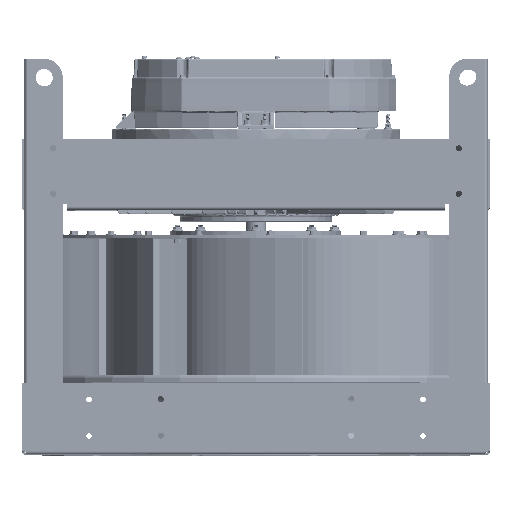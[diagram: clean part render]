
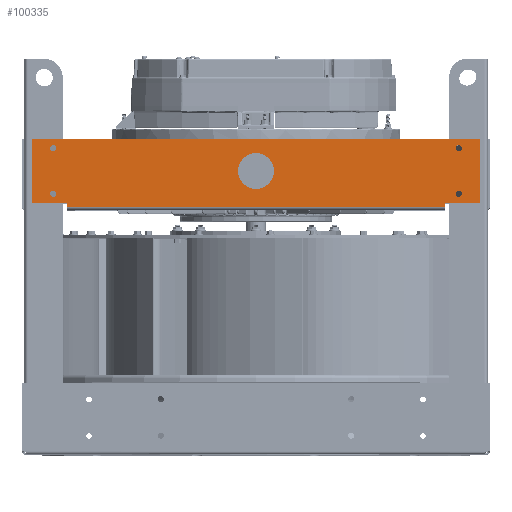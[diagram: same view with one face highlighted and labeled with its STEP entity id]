
A CAD part, top view. The second image highlights one B-rep face of the part: STEP entity #100335.
In plain terms, the highlighted planar face has unit normal (0, 0, 1).
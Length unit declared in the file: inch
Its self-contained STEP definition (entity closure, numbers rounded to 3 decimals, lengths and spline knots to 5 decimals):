
#490 = CARTESIAN_POINT ( 'NONE',  ( 12.465, -1.77, 0.135 ) ) ;
#2557 = DIRECTION ( 'NONE',  ( 0., 0., 1. ) ) ;
#7041 = ORIENTED_EDGE ( 'NONE', *, *, #202492, .T. ) ;
#7904 = ORIENTED_EDGE ( 'NONE', *, *, #88880, .T. ) ;
#8361 = DIRECTION ( 'NONE',  ( 0., 0., 1. ) ) ;
#9456 = ORIENTED_EDGE ( 'NONE', *, *, #35949, .F. ) ;
#10710 = DIRECTION ( 'NONE',  ( 0., 0., 1. ) ) ;
#16184 = LINE ( 'NONE', #255705, #154429 ) ;
#17860 = ORIENTED_EDGE ( 'NONE', *, *, #20929, .T. ) ;
#17904 = ORIENTED_EDGE ( 'NONE', *, *, #71793, .F. ) ;
#20929 = EDGE_CURVE ( 'NONE', #94265, #300326, #89560, .T. ) ;
#21633 = EDGE_CURVE ( 'NONE', #46619, #249233, #131315, .T. ) ;
#22157 = CIRCLE ( 'NONE', #311010, 0.172 ) ;
#24462 = EDGE_CURVE ( 'NONE', #28713, #28713, #31702, .T. ) ;
#24943 = EDGE_LOOP ( 'NONE', ( #197283 ) ) ;
#28713 = VERTEX_POINT ( 'NONE', #219026 ) ;
#29900 = AXIS2_PLACEMENT_3D ( 'NONE', #254078, #8361, #85927 ) ;
#31702 = CIRCLE ( 'NONE', #208892, 1. ) ;
#35949 = EDGE_CURVE ( 'NONE', #201519, #201519, #22157, .T. ) ;
#41467 = FACE_BOUND ( 'NONE', #262429, .T. ) ;
#46619 = VERTEX_POINT ( 'NONE', #207804 ) ;
#48455 = EDGE_CURVE ( 'NONE', #249233, #296844, #92329, .T. ) ;
#48533 = CARTESIAN_POINT ( 'NONE',  ( 0., 0., 0.135 ) ) ;
#61957 = CARTESIAN_POINT ( 'NONE',  ( 11.305, -1.27, 0.135 ) ) ;
#62321 = DIRECTION ( 'NONE',  ( 0., 1., 0. ) ) ;
#65805 = CIRCLE ( 'NONE', #111316, 0.172 ) ;
#68398 = EDGE_LOOP ( 'NONE', ( #138065 ) ) ;
#71242 = CARTESIAN_POINT ( 'NONE',  ( -10.555, 1.9775, 0.135 ) ) ;
#71793 = EDGE_CURVE ( 'NONE', #272517, #207022, #16184, .T. ) ;
#75865 = DIRECTION ( 'NONE',  ( 0., -1., 0. ) ) ;
#77788 = AXIS2_PLACEMENT_3D ( 'NONE', #227976, #10710, #281831 ) ;
#83133 = VECTOR ( 'NONE', #290428, 39.37008 ) ;
#85927 = DIRECTION ( 'NONE',  ( -1., 0., 0. ) ) ;
#88880 = EDGE_CURVE ( 'NONE', #300326, #46619, #94978, .T. ) ;
#89560 = LINE ( 'NONE', #186283, #91820 ) ;
#91820 = VECTOR ( 'NONE', #259237, 39.37008 ) ;
#92172 = FACE_BOUND ( 'NONE', #205823, .T. ) ;
#92329 = LINE ( 'NONE', #262041, #219518 ) ;
#94265 = VERTEX_POINT ( 'NONE', #128664 ) ;
#94978 = LINE ( 'NONE', #171035, #271687 ) ;
#96851 = CARTESIAN_POINT ( 'NONE',  ( -12.465, 1.77, 0.135 ) ) ;
#98784 = DIRECTION ( 'NONE',  ( 1., 0., 0. ) ) ;
#99592 = CARTESIAN_POINT ( 'NONE',  ( -11.477, -1.27, 0.135 ) ) ;
#100335 = ADVANCED_FACE ( 'NONE', ( #236545, #258757, #92172, #41467, #136628, #138188 ), #163578, .F. ) ;
#101149 = VERTEX_POINT ( 'NONE', #99592 ) ;
#106285 = CARTESIAN_POINT ( 'NONE',  ( -11.133, 1.27, 0.135 ) ) ;
#107984 = DIRECTION ( 'NONE',  ( 0., 0., 1. ) ) ;
#111309 = DIRECTION ( 'NONE',  ( 0., -1., 0. ) ) ;
#111316 = AXIS2_PLACEMENT_3D ( 'NONE', #61957, #107984, #158713 ) ;
#112187 = VECTOR ( 'NONE', #201193, 39.37008 ) ;
#124480 = VECTOR ( 'NONE', #260080, 39.37008 ) ;
#128664 = CARTESIAN_POINT ( 'NONE',  ( -10.555, 1.77, 0.135 ) ) ;
#129025 = EDGE_LOOP ( 'NONE', ( #222669 ) ) ;
#131315 = LINE ( 'NONE', #159836, #112187 ) ;
#136628 = FACE_BOUND ( 'NONE', #68398, .T. ) ;
#138065 = ORIENTED_EDGE ( 'NONE', *, *, #193894, .F. ) ;
#138188 = FACE_BOUND ( 'NONE', #24943, .T. ) ;
#139757 = DIRECTION ( 'NONE',  ( -1., 0., 0. ) ) ;
#140489 = CARTESIAN_POINT ( 'NONE',  ( -10.555, 1.9775, 0.135 ) ) ;
#143737 = VERTEX_POINT ( 'NONE', #197587 ) ;
#144895 = ORIENTED_EDGE ( 'NONE', *, *, #232259, .T. ) ;
#147885 = ORIENTED_EDGE ( 'NONE', *, *, #21633, .T. ) ;
#147909 = DIRECTION ( 'NONE',  ( 0., 0., 1. ) ) ;
#154429 = VECTOR ( 'NONE', #111309, 39.37008 ) ;
#158713 = DIRECTION ( 'NONE',  ( 1., 0., 0. ) ) ;
#159836 = CARTESIAN_POINT ( 'NONE',  ( -12.465, -1.77, 0.135 ) ) ;
#163578 = PLANE ( 'NONE',  #242613 ) ;
#167090 = VERTEX_POINT ( 'NONE', #308307 ) ;
#168268 = LINE ( 'NONE', #288850, #83133 ) ;
#169029 = CIRCLE ( 'NONE', #77788, 0.172 ) ;
#170843 = EDGE_CURVE ( 'NONE', #101149, #101149, #257855, .T. ) ;
#171035 = CARTESIAN_POINT ( 'NONE',  ( -12.465, -1.77, 0.135 ) ) ;
#186283 = CARTESIAN_POINT ( 'NONE',  ( -12.465, 1.77, 0.135 ) ) ;
#193894 = EDGE_CURVE ( 'NONE', #167090, #167090, #65805, .T. ) ;
#194424 = DIRECTION ( 'NONE',  ( 1., 0., 0. ) ) ;
#197283 = ORIENTED_EDGE ( 'NONE', *, *, #307972, .F. ) ;
#197587 = CARTESIAN_POINT ( 'NONE',  ( 11.133, 1.27, 0.135 ) ) ;
#198726 = ORIENTED_EDGE ( 'NONE', *, *, #297808, .T. ) ;
#201193 = DIRECTION ( 'NONE',  ( 1., 0., 0. ) ) ;
#201519 = VERTEX_POINT ( 'NONE', #106285 ) ;
#202492 = EDGE_CURVE ( 'NONE', #296844, #207022, #284829, .T. ) ;
#205823 = EDGE_LOOP ( 'NONE', ( #220175 ) ) ;
#207022 = VERTEX_POINT ( 'NONE', #301751 ) ;
#207804 = CARTESIAN_POINT ( 'NONE',  ( -12.465, -1.77, 0.135 ) ) ;
#208892 = AXIS2_PLACEMENT_3D ( 'NONE', #48533, #2557, #194424 ) ;
#214971 = CARTESIAN_POINT ( 'NONE',  ( -12.465, 1.77, 0.135 ) ) ;
#219026 = CARTESIAN_POINT ( 'NONE',  ( 1., 0., 0.135 ) ) ;
#219118 = EDGE_LOOP ( 'NONE', ( #7904, #147885, #265870, #7041, #17904, #198726, #144895, #17860 ) ) ;
#219518 = VECTOR ( 'NONE', #62321, 39.37008 ) ;
#220175 = ORIENTED_EDGE ( 'NONE', *, *, #170843, .F. ) ;
#222669 = ORIENTED_EDGE ( 'NONE', *, *, #24462, .F. ) ;
#224021 = CARTESIAN_POINT ( 'NONE',  ( -11.305, 1.27, 0.135 ) ) ;
#227976 = CARTESIAN_POINT ( 'NONE',  ( 11.305, 1.27, 0.135 ) ) ;
#232259 = EDGE_CURVE ( 'NONE', #256119, #94265, #288581, .T. ) ;
#236545 = FACE_BOUND ( 'NONE', #129025, .T. ) ;
#239631 = DIRECTION ( 'NONE',  ( 0., 0., -1. ) ) ;
#242613 = AXIS2_PLACEMENT_3D ( 'NONE', #287279, #239631, #139757 ) ;
#249233 = VERTEX_POINT ( 'NONE', #490 ) ;
#254078 = CARTESIAN_POINT ( 'NONE',  ( -11.305, -1.27, 0.135 ) ) ;
#255705 = CARTESIAN_POINT ( 'NONE',  ( 10.555, 1.9775, 0.135 ) ) ;
#256119 = VERTEX_POINT ( 'NONE', #140489 ) ;
#257855 = CIRCLE ( 'NONE', #29900, 0.172 ) ;
#258757 = FACE_OUTER_BOUND ( 'NONE', #219118, .T. ) ;
#259237 = DIRECTION ( 'NONE',  ( -1., 0., 0. ) ) ;
#260080 = DIRECTION ( 'NONE',  ( 0., -1., 0. ) ) ;
#262041 = CARTESIAN_POINT ( 'NONE',  ( 12.465, -1.77, 0.135 ) ) ;
#262429 = EDGE_LOOP ( 'NONE', ( #9456 ) ) ;
#265870 = ORIENTED_EDGE ( 'NONE', *, *, #48455, .T. ) ;
#270630 = VECTOR ( 'NONE', #311707, 39.37008 ) ;
#271687 = VECTOR ( 'NONE', #75865, 39.37008 ) ;
#272517 = VERTEX_POINT ( 'NONE', #288228 ) ;
#281831 = DIRECTION ( 'NONE',  ( -1., 0., 0. ) ) ;
#284829 = LINE ( 'NONE', #214971, #270630 ) ;
#284921 = CARTESIAN_POINT ( 'NONE',  ( 12.465, 1.77, 0.135 ) ) ;
#287279 = CARTESIAN_POINT ( 'NONE',  ( 0., 0., 0.135 ) ) ;
#288228 = CARTESIAN_POINT ( 'NONE',  ( 10.555, 1.9775, 0.135 ) ) ;
#288581 = LINE ( 'NONE', #71242, #124480 ) ;
#288850 = CARTESIAN_POINT ( 'NONE',  ( 10.555, 1.9775, 0.135 ) ) ;
#290428 = DIRECTION ( 'NONE',  ( -1., 0., 0. ) ) ;
#296844 = VERTEX_POINT ( 'NONE', #284921 ) ;
#297808 = EDGE_CURVE ( 'NONE', #272517, #256119, #168268, .T. ) ;
#300326 = VERTEX_POINT ( 'NONE', #96851 ) ;
#301751 = CARTESIAN_POINT ( 'NONE',  ( 10.555, 1.77, 0.135 ) ) ;
#307972 = EDGE_CURVE ( 'NONE', #143737, #143737, #169029, .T. ) ;
#308307 = CARTESIAN_POINT ( 'NONE',  ( 11.477, -1.27, 0.135 ) ) ;
#311010 = AXIS2_PLACEMENT_3D ( 'NONE', #224021, #147909, #98784 ) ;
#311707 = DIRECTION ( 'NONE',  ( -1., 0., 0. ) ) ;
